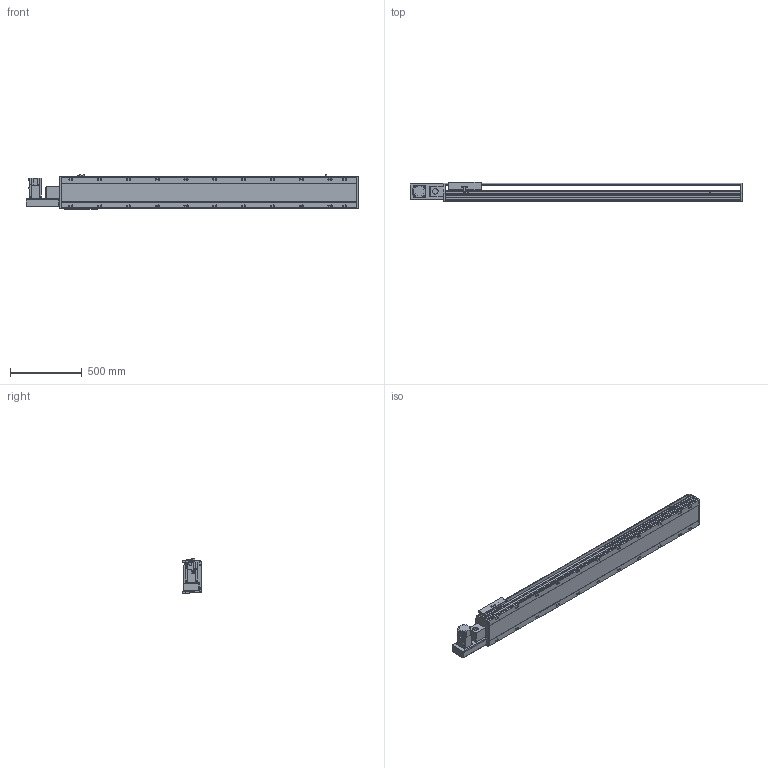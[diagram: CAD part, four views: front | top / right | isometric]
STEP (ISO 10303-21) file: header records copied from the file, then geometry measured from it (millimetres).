
FILE_DESCRIPTION(/* description */ ('STEP AP214'),/* implementation_level */ '2;1');
FILE_NAME(/* name */ 'PBS220-P40-S1700-L-T75-C1-N(0)',/* time_stamp */ '2022-06-11T09:56:34+02:00',/* author */ ('License CC BY-ND 4.0'),/* organization */ ('CADENAS'),/* preprocessor_version */ 'ST-DEVELOPER v18.102',/* originating_system */ 'PARTsolutions',/* authorisation */ ' ');
FILE_SCHEMA (('AUTOMOTIVE_DESIGN {1 0 10303 214 3 1 1}'));
Length unit declared in the file: millimetre
Products named in the file (7): PBS220-P40-S1700-L-T75-C1-N(0); PBS220_sensor; PBS220_plant; PBS220_sliser; T75-p1; PBS220T-L_motors; PBS220-S1700()_body
Assembly tree (8 placements, depth 2):
  PBS220-P40-S1700-L-T75-C1-N(0)
    PBS220_sensor  x3
    PBS220_plant
    PBS220_sliser
    T75-p1
    PBS220T-L_motors
    PBS220-S1700()_body
Bounding box: 2306 x 134 x 238.5 mm (x, y, z)
Volume: 30882465.4 mm3; surface area: 2903212.1 mm2
Topology: 8 solids, 8 shells, 950 faces, 2480 edges, 1612 vertices
Faces by surface type: plane 610, cylinder 294, cone 46
Full cylindrical faces by diameter (mm): 2.013 x4, 4.5 x14, 4.917 x4, 6 x7, 6.647 x8, 8 x10, 8.376 x22, 8.5 x22, 10 x6, 14 x22, 38 x2, 40 x1, 70 x1
Entity records: 26565 total; most frequent: CARTESIAN_POINT 4690, DIRECTION 4617, ORIENTED_EDGE 4214, EDGE_CURVE 2107, AXIS2_PLACEMENT_3D 1633, VERTEX_POINT 1464, LINE 1351, VECTOR 1351
